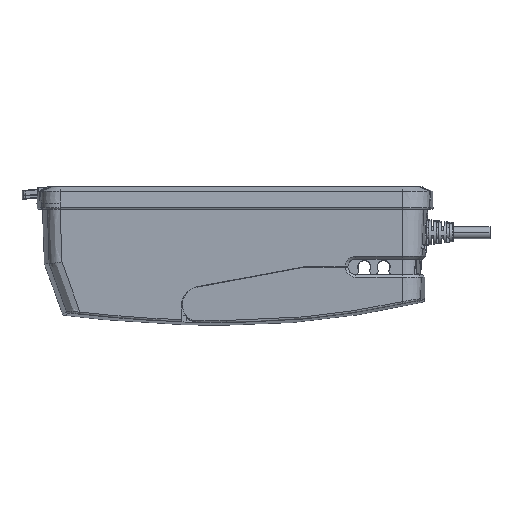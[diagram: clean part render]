
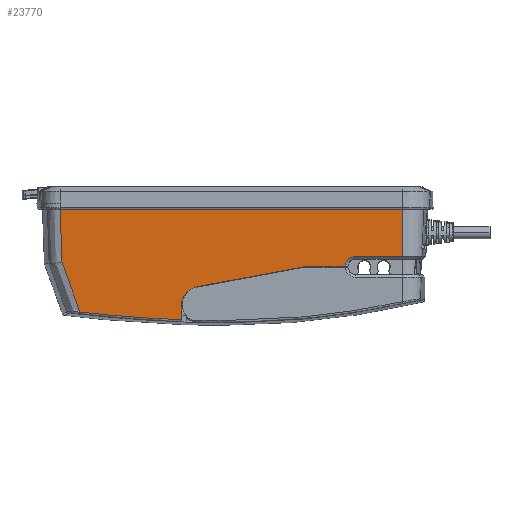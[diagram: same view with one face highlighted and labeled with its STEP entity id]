
A CAD part, front view. The second image highlights one B-rep face of the part: STEP entity #23770.
In plain terms, the highlighted planar face has unit normal (0, -0.999, -0.035).
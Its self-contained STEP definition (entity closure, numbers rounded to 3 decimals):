
#1079=CARTESIAN_POINT('',(30.841,-41.966,
-24.109));
#1080=CARTESIAN_POINT('',(31.142,-41.968,
-24.053));
#1081=CARTESIAN_POINT('',(31.446,-41.969,
-24.025));
#1082=CARTESIAN_POINT('',(31.753,-41.969,
-24.025));
#1092=DIRECTION('',(-1.,0.,0.));
#1093=VECTOR('',#1092,18.389);
#1094=CARTESIAN_POINT('',(50.142,-41.969,
-24.025));
#1095=LINE('',#1094,#1093);
#1096=DIRECTION('',(-0.983,0.006,-0.183));
#1097=VECTOR('',#1096,50.535);
#1098=CARTESIAN_POINT('',(30.841,-41.966,
-24.109));
#1099=LINE('',#1098,#1097);
#1100=DIRECTION('',(0.,-0.035,0.999));
#1101=VECTOR('',#1100,6.922);
#1102=CARTESIAN_POINT('',(-25.775,-41.11,
-48.617));
#1103=LINE('',#1102,#1101);
#1104=CARTESIAN_POINT('',(-5.,-61.893,546.532));
#1105=DIRECTION('',(0.,-0.999,-0.035));
#1106=DIRECTION('',(-0.114,0.035,-0.993));
#1107=AXIS2_PLACEMENT_3D('',#1104,#1105,#1106);
#1109=CARTESIAN_POINT('',(-81.423,-42.048,
-21.756));
#1110=CARTESIAN_POINT('',(-79.993,-41.91,
-25.704));
#1111=CARTESIAN_POINT('',(-77.153,-41.637,
-33.54));
#1112=CARTESIAN_POINT('',(-74.355,-41.367,
-41.261));
#1113=CARTESIAN_POINT('',(-72.966,-41.233,
-45.092));
#1115=CARTESIAN_POINT('',(-82.177,-42.902,
2.7));
#1116=CARTESIAN_POINT('',(-82.052,-42.76,
-1.383));
#1117=CARTESIAN_POINT('',(-81.8,-42.475,
-9.542));
#1118=CARTESIAN_POINT('',(-81.549,-42.19,
-17.687));
#1119=CARTESIAN_POINT('',(-81.423,-42.048,
-21.756));
#1121=DIRECTION('',(-1.,0.,0.));
#1122=VECTOR('',#1121,158.891);
#1123=CARTESIAN_POINT('',(76.714,-42.902,2.7));
#1124=LINE('',#1123,#1122);
#1125=DIRECTION('',(1.,0.,0.));
#1126=VECTOR('',#1125,21.685);
#1127=CARTESIAN_POINT('',(55.029,-42.137,
-19.226));
#1128=LINE('',#1127,#1126);
#1129=CARTESIAN_POINT('',(50.145,-41.972,
-23.951));
#1130=CARTESIAN_POINT('',(50.151,-41.978,
-23.772));
#1131=CARTESIAN_POINT('',(50.183,-41.99,
-23.414));
#1132=CARTESIAN_POINT('',(50.29,-42.009,
-22.885));
#1133=CARTESIAN_POINT('',(50.454,-42.027,
-22.373));
#1134=CARTESIAN_POINT('',(50.673,-42.044,
-21.88));
#1135=CARTESIAN_POINT('',(50.945,-42.06,
-21.415));
#1136=CARTESIAN_POINT('',(51.265,-42.075,
-20.983));
#1137=CARTESIAN_POINT('',(51.631,-42.089,
-20.589));
#1138=CARTESIAN_POINT('',(52.038,-42.101,
-20.237));
#1139=CARTESIAN_POINT('',(52.48,-42.112,
-19.933));
#1140=CARTESIAN_POINT('',(52.953,-42.121,
-19.678));
#1141=CARTESIAN_POINT('',(53.451,-42.128,
-19.478));
#1142=CARTESIAN_POINT('',(53.968,-42.133,
-19.332));
#1143=CARTESIAN_POINT('',(54.498,-42.136,
-19.245));
#1144=CARTESIAN_POINT('',(54.852,-42.137,
-19.226));
#1145=CARTESIAN_POINT('',(55.029,-42.137,
-19.226));
#1147=DIRECTION('',(0.035,-0.035,0.999));
#1148=VECTOR('',#1147,0.074);
#1149=CARTESIAN_POINT('',(50.142,-41.969,
-24.025));
#1150=LINE('',#1149,#1148);
#1151=CARTESIAN_POINT('',(-25.775,-41.352,
-41.698));
#1152=CARTESIAN_POINT('',(-25.775,-41.372,
-41.11));
#1153=CARTESIAN_POINT('',(-25.657,-41.41,
-40.032));
#1154=CARTESIAN_POINT('',(-25.1,-41.476,
-38.144));
#1155=CARTESIAN_POINT('',(-23.925,-41.544,
-36.181));
#1156=CARTESIAN_POINT('',(-22.212,-41.597,
-34.664));
#1157=CARTESIAN_POINT('',(-20.458,-41.629,
-33.769));
#1158=CARTESIAN_POINT('',(-19.42,-41.64,
-33.456));
#1159=CARTESIAN_POINT('',(-18.842,-41.643,
-33.348));
#1187=CARTESIAN_POINT('',(-72.966,-41.233,
-45.092));
#1204=CARTESIAN_POINT('',(-81.423,-42.048,
-21.756));
#10004=DIRECTION('',(0.,0.035,-0.999));
#10005=VECTOR('',#10004,21.939);
#10006=CARTESIAN_POINT('',(76.714,-42.902,2.7));
#10007=LINE('',#10006,#10005);
#19231=VERTEX_POINT('',#1204);
#19733=VERTEX_POINT('',#1187);
#19736=CARTESIAN_POINT('',(-25.775,-41.11,
-48.617));
#19737=VERTEX_POINT('',#19736);
#19813=CARTESIAN_POINT('',(50.142,-41.969,
-24.025));
#19814=CARTESIAN_POINT('',(50.145,-41.972,
-23.951));
#19815=VERTEX_POINT('',#19813);
#19816=VERTEX_POINT('',#19814);
#20602=CARTESIAN_POINT('',(76.714,-42.902,2.7));
#20603=CARTESIAN_POINT('',(-82.177,-42.902,
2.7));
#20604=VERTEX_POINT('',#20602);
#20605=VERTEX_POINT('',#20603);
#20667=CARTESIAN_POINT('',(-25.775,-41.352,
-41.698));
#20668=VERTEX_POINT('',#20667);
#20669=CARTESIAN_POINT('',(-18.842,-41.643,
-33.348));
#20670=VERTEX_POINT('',#20669);
#20691=CARTESIAN_POINT('',(76.714,-42.137,
-19.226));
#20692=VERTEX_POINT('',#20691);
#20695=CARTESIAN_POINT('',(55.029,-42.137,
-19.226));
#20696=VERTEX_POINT('',#20695);
#20778=CARTESIAN_POINT('',(31.753,-41.969,
-24.025));
#20780=VERTEX_POINT('',#20778);
#20783=CARTESIAN_POINT('',(30.841,-41.966,
-24.109));
#20784=VERTEX_POINT('',#20783);
#23741=CARTESIAN_POINT('',(-109.6,-43.,5.5));
#23742=DIRECTION('',(0.,-0.999,-0.035));
#23743=DIRECTION('',(-1.,0.,0.));
#23744=AXIS2_PLACEMENT_3D('',#23741,#23742,#23743);
#23745=PLANE('',#23744);
#23746=ORIENTED_EDGE('',*,*,#23724,.T.);
#23747=ORIENTED_EDGE('',*,*,#23706,.F.);
#23748=ORIENTED_EDGE('',*,*,#23685,.T.);
#23750=ORIENTED_EDGE('',*,*,#23749,.F.);
#23751=ORIENTED_EDGE('',*,*,#23253,.F.);
#23753=ORIENTED_EDGE('',*,*,#23752,.F.);
#23755=ORIENTED_EDGE('',*,*,#23754,.F.);
#23757=ORIENTED_EDGE('',*,*,#23756,.F.);
#23759=ORIENTED_EDGE('',*,*,#23758,.F.);
#23761=ORIENTED_EDGE('',*,*,#23760,.T.);
#23763=ORIENTED_EDGE('',*,*,#23762,.F.);
#23765=ORIENTED_EDGE('',*,*,#23764,.F.);
#23767=ORIENTED_EDGE('',*,*,#23766,.F.);
#23768=EDGE_LOOP('',(#23746,#23747,#23748,#23750,#23751,#23753,#23755,#23757,
#23759,#23761,#23763,#23765,#23767));
#23769=FACE_OUTER_BOUND('',#23768,.F.);
#23770=ADVANCED_FACE('',(#23769),#23745,.T.);
#1083=B_SPLINE_CURVE_WITH_KNOTS('',3,(#1079,#1080,#1081,#1082),.UNSPECIFIED.,
.F.,.F.,(4,4),(0.,1.),.UNSPECIFIED.);
#1108=CIRCLE('',#1107,595.874);
#1114=B_SPLINE_CURVE_WITH_KNOTS('',3,(#1109,#1110,#1111,#1112,#1113),
.UNSPECIFIED.,.F.,.F.,(4,1,4),(0.,0.5,1.),.UNSPECIFIED.);
#1120=B_SPLINE_CURVE_WITH_KNOTS('',3,(#1115,#1116,#1117,#1118,#1119),
.UNSPECIFIED.,.F.,.F.,(4,1,4),(0.,0.5,1.),.UNSPECIFIED.);
#1146=B_SPLINE_CURVE_WITH_KNOTS('',3,(#1129,#1130,#1131,#1132,#1133,#1134,#1135,
#1136,#1137,#1138,#1139,#1140,#1141,#1142,#1143,#1144,#1145),.UNSPECIFIED.,.F.,
.F.,(4,1,1,1,1,1,1,1,1,1,1,1,1,1,4),(0.,0.071,0.143,
0.214,0.286,0.357,0.429,0.5,
0.571,0.643,0.714,0.786,
0.857,0.929,1.),.UNSPECIFIED.);
#1160=B_SPLINE_CURVE_WITH_KNOTS('',3,(#1151,#1152,#1153,#1154,#1155,#1156,#1157,
#1158,#1159),.UNSPECIFIED.,.F.,.F.,(4,1,1,1,1,1,4),(0.,0.125,0.25,0.5,
0.75,0.875,1.),.UNSPECIFIED.);
#23253=EDGE_CURVE('',#19737,#20668,#1103,.T.);
#23685=EDGE_CURVE('',#20784,#20670,#1099,.T.);
#23706=EDGE_CURVE('',#20784,#20780,#1083,.T.);
#23724=EDGE_CURVE('',#19815,#20780,#1095,.T.);
#23749=EDGE_CURVE('',#20668,#20670,#1160,.T.);
#23752=EDGE_CURVE('',#19733,#19737,#1108,.T.);
#23754=EDGE_CURVE('',#19231,#19733,#1114,.T.);
#23756=EDGE_CURVE('',#20605,#19231,#1120,.T.);
#23758=EDGE_CURVE('',#20604,#20605,#1124,.T.);
#23760=EDGE_CURVE('',#20604,#20692,#10007,.T.);
#23762=EDGE_CURVE('',#20696,#20692,#1128,.T.);
#23764=EDGE_CURVE('',#19816,#20696,#1146,.T.);
#23766=EDGE_CURVE('',#19815,#19816,#1150,.T.);
